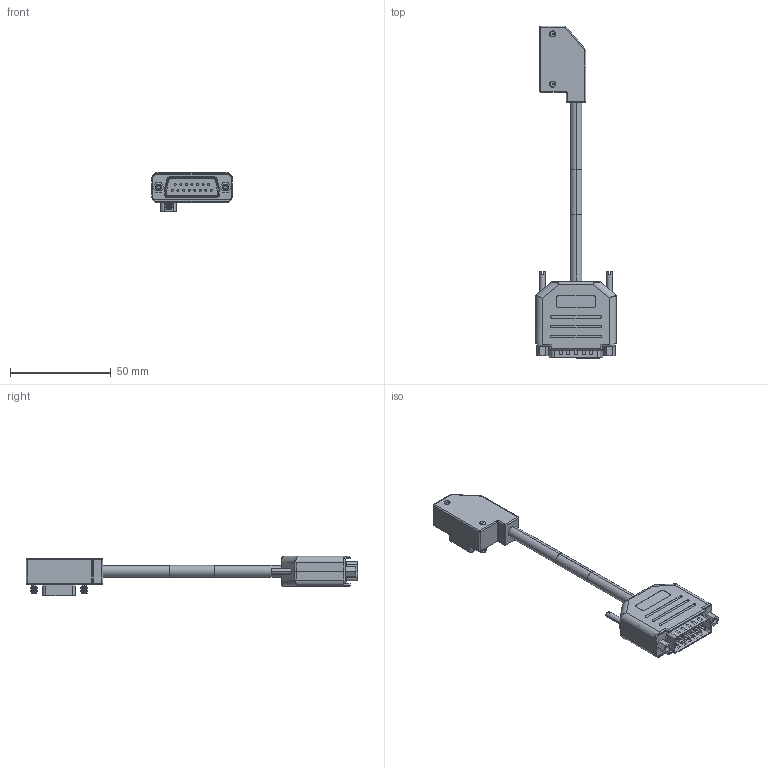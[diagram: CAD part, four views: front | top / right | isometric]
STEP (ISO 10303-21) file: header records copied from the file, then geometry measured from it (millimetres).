
FILE_DESCRIPTION (( 'STEP AP203' ), '1' );
FILE_NAME ('SX-To-UX_CABLE.STEP', '2023-11-28T16:30:58', ( '' ), ( '' ), 'SwSTEP 2.0', 'SolidWorks 2020', '' );
FILE_SCHEMA (( 'CONFIG_CONTROL_DESIGN' ));
Length unit declared in the file: inch
Products named in the file (1): SX-To-UX_CABLE
Bounding box: 40.01 x 164.96 x 19.62 mm (x, y, z)
Volume: 21756.1 mm3; surface area: 20909.6 mm2
Topology: 17 solids, 17 shells, 1020 faces, 2538 edges, 1591 vertices
Faces by surface type: plane 487, cylinder 400, bspline 63, cone 52, sphere 12, torus 6
Entity records: 34841 total; most frequent: CARTESIAN_POINT 10679, DIRECTION 5069, ORIENTED_EDGE 4972, EDGE_CURVE 2486, AXIS2_PLACEMENT_3D 1789, VERTEX_POINT 1591, LINE 1491, VECTOR 1491
